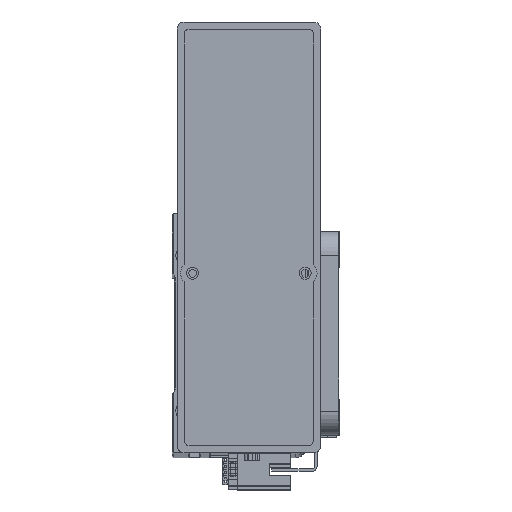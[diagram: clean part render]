
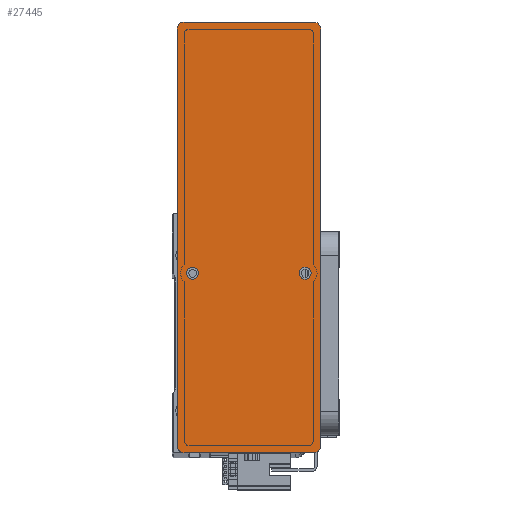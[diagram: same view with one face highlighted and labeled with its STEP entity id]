
A CAD part, top view. The second image highlights one B-rep face of the part: STEP entity #27445.
In plain terms, the highlighted planar face has unit normal (0, 0, 1) as drawn and (0, 0, -1) by its records, which use the part's own axes.
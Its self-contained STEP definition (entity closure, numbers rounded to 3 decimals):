
#393 = CARTESIAN_POINT ( 'NONE',  ( 87., 27., 0. ) ) ;
#1982 = VERTEX_POINT ( 'NONE', #37117 ) ;
#2224 = DIRECTION ( 'NONE',  ( -1., 0., 0. ) ) ;
#3458 = LINE ( 'NONE', #17528, #14931 ) ;
#3764 = VERTEX_POINT ( 'NONE', #32135 ) ;
#5293 = DIRECTION ( 'NONE',  ( 1., 0., 0. ) ) ;
#5572 = CIRCLE ( 'NONE', #21369, 3. ) ;
#5665 = ORIENTED_EDGE ( 'NONE', *, *, #62720, .T. ) ;
#6353 = ORIENTED_EDGE ( 'NONE', *, *, #11301, .F. ) ;
#6437 = VERTEX_POINT ( 'NONE', #17388 ) ;
#7242 = CIRCLE ( 'NONE', #46680, 2.5 ) ;
#8342 = DIRECTION ( 'NONE',  ( 0., 0., -1. ) ) ;
#8379 = FACE_BOUND ( 'NONE', #55020, .T. ) ;
#8503 = CARTESIAN_POINT ( 'NONE',  ( -90., -30., 0. ) ) ;
#8602 = AXIS2_PLACEMENT_3D ( 'NONE', #13848, #47826, #18686 ) ;
#8921 = VERTEX_POINT ( 'NONE', #43640 ) ;
#9349 = AXIS2_PLACEMENT_3D ( 'NONE', #17783, #51836, #22729 ) ;
#10534 = ORIENTED_EDGE ( 'NONE', *, *, #53184, .F. ) ;
#11301 = EDGE_CURVE ( 'NONE', #40460, #3764, #43516, .T. ) ;
#12697 = VERTEX_POINT ( 'NONE', #27264 ) ;
#13459 = AXIS2_PLACEMENT_3D ( 'NONE', #26037, #60124, #30912 ) ;
#13848 = CARTESIAN_POINT ( 'NONE',  ( 0., 0., 0. ) ) ;
#13885 = EDGE_CURVE ( 'NONE', #34260, #61583, #7242, .T. ) ;
#14931 = VECTOR ( 'NONE', #51572, 1000. ) ;
#14943 = DIRECTION ( 'NONE',  ( 0., 0., -1. ) ) ;
#16597 = AXIS2_PLACEMENT_3D ( 'NONE', #23672, #57723, #28522 ) ;
#16923 = EDGE_LOOP ( 'NONE', ( #55143, #43025 ) ) ;
#16986 = VECTOR ( 'NONE', #61882, 1000. ) ;
#17208 = AXIS2_PLACEMENT_3D ( 'NONE', #44015, #14943, #48936 ) ;
#17388 = CARTESIAN_POINT ( 'NONE',  ( -87., 30., 0. ) ) ;
#17473 = EDGE_CURVE ( 'NONE', #8921, #34062, #31428, .T. ) ;
#17528 = CARTESIAN_POINT ( 'NONE',  ( 90., -30., 0. ) ) ;
#17783 = CARTESIAN_POINT ( 'NONE',  ( 87., -27., 0. ) ) ;
#18686 = DIRECTION ( 'NONE',  ( 1., 0., 0. ) ) ;
#19792 = FACE_BOUND ( 'NONE', #16923, .T. ) ;
#19921 = VECTOR ( 'NONE', #42966, 1000. ) ;
#20910 = EDGE_CURVE ( 'NONE', #56432, #3764, #22010, .T. ) ;
#21209 = EDGE_CURVE ( 'NONE', #26259, #1982, #46132, .T. ) ;
#21369 = AXIS2_PLACEMENT_3D ( 'NONE', #24164, #58234, #29006 ) ;
#21377 = EDGE_CURVE ( 'NONE', #56432, #12697, #3458, .T. ) ;
#21690 = ORIENTED_EDGE ( 'NONE', *, *, #17473, .F. ) ;
#22010 = CIRCLE ( 'NONE', #9349, 3. ) ;
#22729 = DIRECTION ( 'NONE',  ( 1., 0., 0. ) ) ;
#23672 = CARTESIAN_POINT ( 'NONE',  ( -87., 27., 0. ) ) ;
#24164 = CARTESIAN_POINT ( 'NONE',  ( -87., -27., 0. ) ) ;
#26037 = CARTESIAN_POINT ( 'NONE',  ( -15., -23.5, 0. ) ) ;
#26259 = VERTEX_POINT ( 'NONE', #28816 ) ;
#26537 = EDGE_CURVE ( 'NONE', #1982, #26259, #58810, .T. ) ;
#27264 = CARTESIAN_POINT ( 'NONE',  ( 90., 27., 0. ) ) ;
#27445 = ADVANCED_FACE ( 'NONE', ( #8379, #19792, #34150 ), #42672, .F. ) ;
#28257 = CIRCLE ( 'NONE', #17208, 2.5 ) ;
#28330 = CARTESIAN_POINT ( 'NONE',  ( 90., 30., 0. ) ) ;
#28522 = DIRECTION ( 'NONE',  ( 1., 0., 0. ) ) ;
#28561 = ORIENTED_EDGE ( 'NONE', *, *, #47873, .T. ) ;
#28816 = CARTESIAN_POINT ( 'NONE',  ( -17.5, -23.5, 0. ) ) ;
#29006 = DIRECTION ( 'NONE',  ( 1., 0., 0. ) ) ;
#30532 = CIRCLE ( 'NONE', #16597, 3. ) ;
#30912 = DIRECTION ( 'NONE',  ( -1., 0., 0. ) ) ;
#31311 = DIRECTION ( 'NONE',  ( 0., 0., -1. ) ) ;
#31428 = LINE ( 'NONE', #8503, #16986 ) ;
#32135 = CARTESIAN_POINT ( 'NONE',  ( 87., -30., 0. ) ) ;
#32740 = CARTESIAN_POINT ( 'NONE',  ( -87., -30., 0. ) ) ;
#33051 = CARTESIAN_POINT ( 'NONE',  ( 90., -27., 0. ) ) ;
#33506 = CIRCLE ( 'NONE', #40539, 3. ) ;
#34062 = VERTEX_POINT ( 'NONE', #46002 ) ;
#34150 = FACE_OUTER_BOUND ( 'NONE', #41242, .T. ) ;
#34260 = VERTEX_POINT ( 'NONE', #38414 ) ;
#34319 = DIRECTION ( 'NONE',  ( 0., 0., -1. ) ) ;
#34382 = ORIENTED_EDGE ( 'NONE', *, *, #37278, .F. ) ;
#37117 = CARTESIAN_POINT ( 'NONE',  ( -12.5, -23.5, 0. ) ) ;
#37278 = EDGE_CURVE ( 'NONE', #45521, #6437, #45763, .T. ) ;
#37337 = CARTESIAN_POINT ( 'NONE',  ( -15., 23.5, 0. ) ) ;
#38414 = CARTESIAN_POINT ( 'NONE',  ( -12.5, 23.5, 0. ) ) ;
#39525 = EDGE_CURVE ( 'NONE', #45521, #12697, #33506, .T. ) ;
#39674 = ORIENTED_EDGE ( 'NONE', *, *, #39525, .T. ) ;
#40460 = VERTEX_POINT ( 'NONE', #32740 ) ;
#40490 = CARTESIAN_POINT ( 'NONE',  ( -17.5, 23.5, 0. ) ) ;
#40539 = AXIS2_PLACEMENT_3D ( 'NONE', #393, #34319, #5293 ) ;
#41242 = EDGE_LOOP ( 'NONE', ( #53769, #62579, #6353, #28561, #21690, #5665, #34382, #39674 ) ) ;
#42284 = DIRECTION ( 'NONE',  ( -1., 0., 0. ) ) ;
#42672 = PLANE ( 'NONE',  #8602 ) ;
#42966 = DIRECTION ( 'NONE',  ( -1., 0., 0. ) ) ;
#43025 = ORIENTED_EDGE ( 'NONE', *, *, #26537, .F. ) ;
#43516 = LINE ( 'NONE', #51860, #54995 ) ;
#43640 = CARTESIAN_POINT ( 'NONE',  ( -90., 27., 0. ) ) ;
#44015 = CARTESIAN_POINT ( 'NONE',  ( -15., 23.5, 0. ) ) ;
#44955 = ORIENTED_EDGE ( 'NONE', *, *, #13885, .F. ) ;
#45521 = VERTEX_POINT ( 'NONE', #63040 ) ;
#45763 = LINE ( 'NONE', #28330, #19921 ) ;
#46002 = CARTESIAN_POINT ( 'NONE',  ( -90., -27., 0. ) ) ;
#46132 = CIRCLE ( 'NONE', #13459, 2.5 ) ;
#46680 = AXIS2_PLACEMENT_3D ( 'NONE', #37337, #8342, #42284 ) ;
#47826 = DIRECTION ( 'NONE',  ( 0., 0., 1. ) ) ;
#47873 = EDGE_CURVE ( 'NONE', #40460, #34062, #5572, .T. ) ;
#48936 = DIRECTION ( 'NONE',  ( -1., 0., 0. ) ) ;
#50517 = AXIS2_PLACEMENT_3D ( 'NONE', #60522, #31311, #2224 ) ;
#51572 = DIRECTION ( 'NONE',  ( 0., 1., 0. ) ) ;
#51836 = DIRECTION ( 'NONE',  ( 0., 0., -1. ) ) ;
#51860 = CARTESIAN_POINT ( 'NONE',  ( 90., -30., 0. ) ) ;
#53184 = EDGE_CURVE ( 'NONE', #61583, #34260, #28257, .T. ) ;
#53769 = ORIENTED_EDGE ( 'NONE', *, *, #21377, .F. ) ;
#54995 = VECTOR ( 'NONE', #61651, 1000. ) ;
#55020 = EDGE_LOOP ( 'NONE', ( #10534, #44955 ) ) ;
#55143 = ORIENTED_EDGE ( 'NONE', *, *, #21209, .F. ) ;
#56432 = VERTEX_POINT ( 'NONE', #33051 ) ;
#57723 = DIRECTION ( 'NONE',  ( 0., 0., -1. ) ) ;
#58234 = DIRECTION ( 'NONE',  ( 0., 0., -1. ) ) ;
#58810 = CIRCLE ( 'NONE', #50517, 2.5 ) ;
#60124 = DIRECTION ( 'NONE',  ( 0., 0., -1. ) ) ;
#60522 = CARTESIAN_POINT ( 'NONE',  ( -15., -23.5, 0. ) ) ;
#61583 = VERTEX_POINT ( 'NONE', #40490 ) ;
#61651 = DIRECTION ( 'NONE',  ( 1., 0., 0. ) ) ;
#61882 = DIRECTION ( 'NONE',  ( 0., -1., 0. ) ) ;
#62579 = ORIENTED_EDGE ( 'NONE', *, *, #20910, .T. ) ;
#62720 = EDGE_CURVE ( 'NONE', #8921, #6437, #30532, .T. ) ;
#63040 = CARTESIAN_POINT ( 'NONE',  ( 87., 30., 0. ) ) ;
